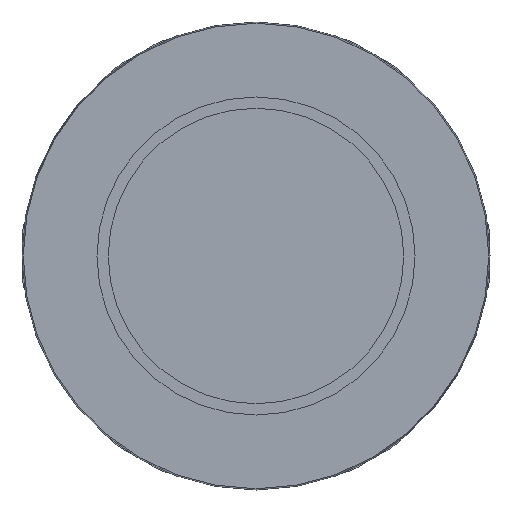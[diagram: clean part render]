
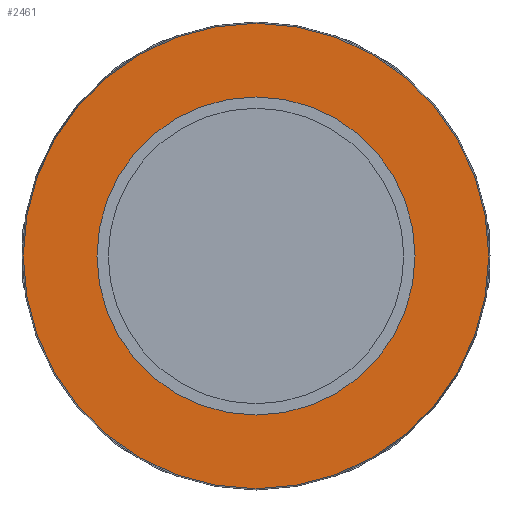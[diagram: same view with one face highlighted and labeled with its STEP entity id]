
A CAD part, front view. The second image highlights one B-rep face of the part: STEP entity #2461.
In plain terms, the highlighted planar face has unit normal (0, -1, 0).
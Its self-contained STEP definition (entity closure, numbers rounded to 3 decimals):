
#2427=CARTESIAN_POINT('',(-20.5,-38.1,0.0));
#2428=VERTEX_POINT('',#2427);
#2429=CARTESIAN_POINT('',(0.0,-38.1,0.0));
#2430=DIRECTION('',(0.0,1.0,0.0));
#2431=DIRECTION('',(-1.0,0.0,0.0));
#2432=AXIS2_PLACEMENT_3D('',#2429,#2430,#2431);
#2433=CIRCLE('',#2432,20.5);
#2434=EDGE_CURVE('',#2428,#2428,#2433,.T.);
#2442=CARTESIAN_POINT('',(-25.25,-38.1,0.0));
#2443=DIRECTION('',(0.0,-1.0,0.0));
#2444=DIRECTION('',(0.0,0.0,-1.0));
#2445=AXIS2_PLACEMENT_3D('',#2442,#2443,#2444);
#2446=PLANE('',#2445);
#2447=CARTESIAN_POINT('',(-30.0,-38.1,0.0));
#2448=VERTEX_POINT('',#2447);
#2449=CARTESIAN_POINT('',(0.0,-38.1,0.0));
#2450=DIRECTION('',(0.0,1.0,0.0));
#2451=DIRECTION('',(-1.0,0.0,0.0));
#2452=AXIS2_PLACEMENT_3D('',#2449,#2450,#2451);
#2453=CIRCLE('',#2452,30.0);
#2454=EDGE_CURVE('',#2448,#2448,#2453,.T.);
#2455=ORIENTED_EDGE('',*,*,#2454,.F.);
#2456=EDGE_LOOP('',(#2455));
#2457=FACE_OUTER_BOUND('',#2456,.T.);
#2458=ORIENTED_EDGE('',*,*,#2434,.T.);
#2459=EDGE_LOOP('',(#2458));
#2460=FACE_BOUND('',#2459,.T.);
#2461=ADVANCED_FACE('',(#2457,#2460),#2446,.T.);
